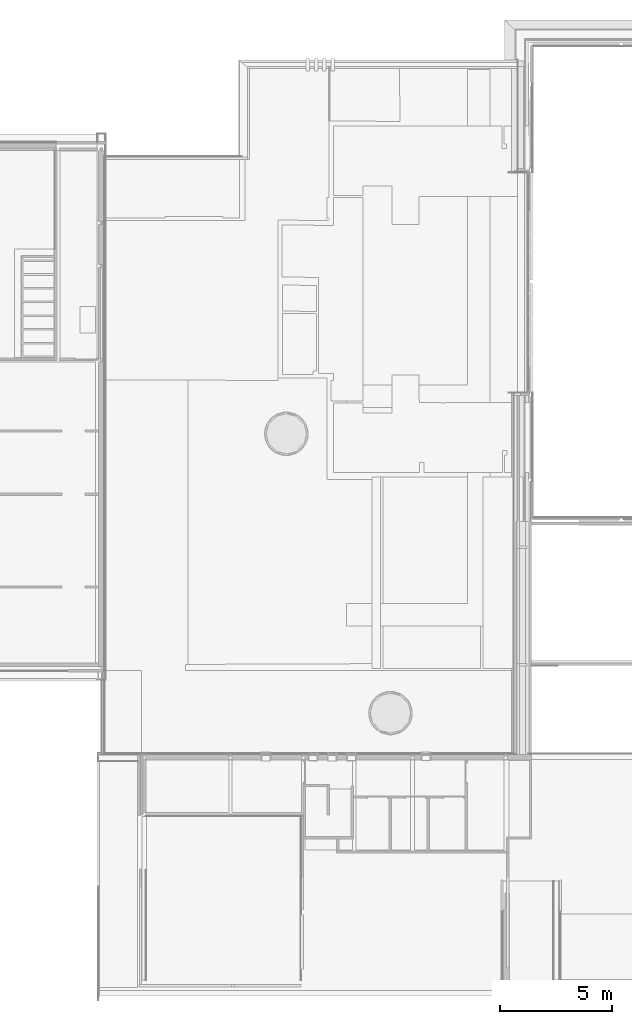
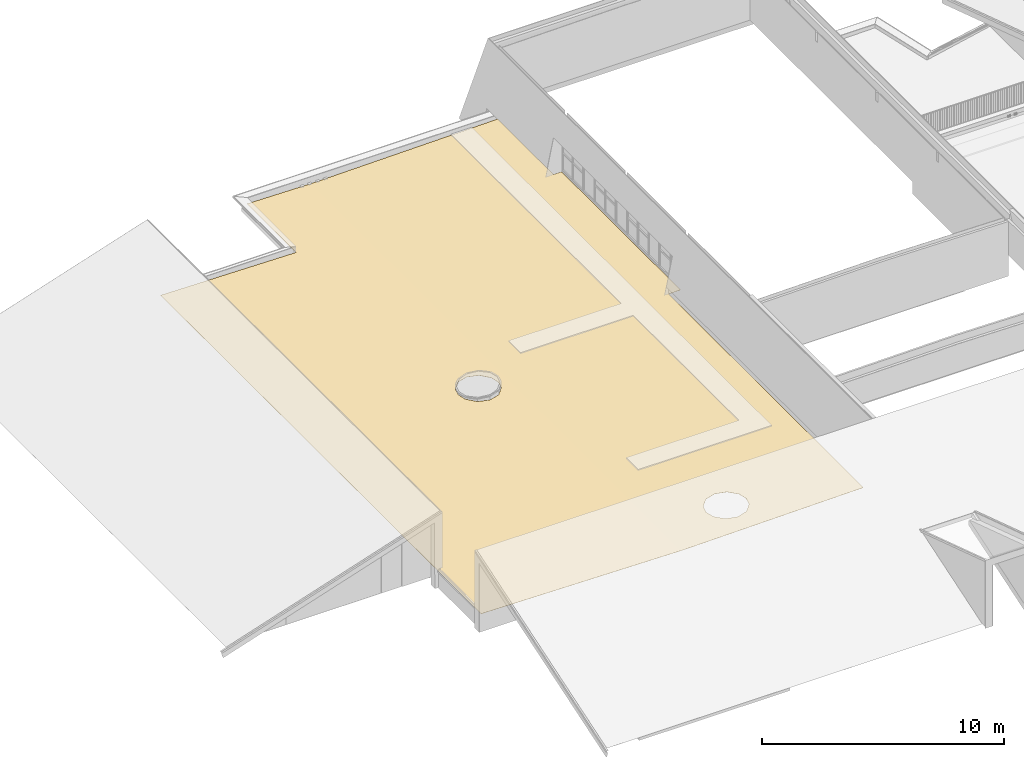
# One storey, part 62 of 66: 1 covering.
"""IFC2X3 building model written with IfcOpenShell, lengths in millimetres."""

import ifcopenshell
import ifcopenshell.guid

model = None  # the IFC model being written
_history = None  # IfcOwnerHistory: only IFC2X3 demands one
_inside = {}  # id of a spatial element -> (the spatial element, [elements in it])
_under = {}  # id of a project, library or spatial element -> (it, [spatial elements below it])
_declared = {}  # id of a project -> (the project, [libraries it declares])
_typed = {}  # id of a type object -> (the type object, [elements of that type])
_made_of = {}  # id of a material, layer set ... -> (it, [elements and type objects made of it])


def new_model(schema):
    """Start an empty IFC model of exactly this schema.

    Asked for "IFC4X3", IfcOpenShell would pick the latest addendum, in which some entities
    have other attributes; the version numbers below select the first issue.
    IFC2X3 requires an IfcOwnerHistory on every rooted entity: one is made here for all.
    """
    global model, _history
    if schema == "IFC4X3":
        model = ifcopenshell.file(schema_version=(4, 3, 0, 0))
    else:
        model = ifcopenshell.file(schema=schema)
    _inside.clear()
    _under.clear()
    _declared.clear()
    _typed.clear()
    _made_of.clear()
    _history = None
    if model.schema == "IFC2X3":
        org = make("IfcOrganization", Name="unknown")
        user = make(
            "IfcPersonAndOrganization",
            ThePerson=make("IfcPerson", FamilyName="unknown"),
            TheOrganization=org,
        )
        app = make(
            "IfcApplication",
            ApplicationDeveloper=org,
            Version="unknown",
            ApplicationFullName="unknown",
            ApplicationIdentifier="unknown",
        )
        _history = make(
            "IfcOwnerHistory",
            OwningUser=user,
            OwningApplication=app,
            ChangeAction="ADDED",
            CreationDate=0,
        )
    return model


def make(cls, **values):
    """One entity of the class cls with the attributes given. An attribute that is None is left unset."""
    return model.create_entity(
        cls, **{name: value for name, value in values.items() if value is not None}
    )


def entity(cls, *values):
    """Any entity or typed value of the class cls, its attributes in the order of the schema. None: left unset."""
    e = model.create_entity(cls)
    for i, value in enumerate(values):
        if value is not None:
            e[i] = value
    return e


def rooted(cls, **values):
    """An entity with a GlobalId (a new one), such as an element, a storey or a relation."""
    return make(cls, GlobalId=ifcopenshell.guid.new(), OwnerHistory=_history, **values)


def si_unit(unit_type, name, prefix=None):
    """IfcSIUnit, for example si_unit("LENGTHUNIT", "METRE", prefix="MILLI")."""
    return make("IfcSIUnit", UnitType=unit_type, Prefix=prefix, Name=name)


def converted_unit(unit_type, name, factor, base, dimensions=None, offset=None):
    """IfcConversionBasedUnit, such as the inch: factor (a typed value) times the base unit."""
    return make(
        "IfcConversionBasedUnit"
        if offset is None
        else "IfcConversionBasedUnitWithOffset",
        ConversionOffset=offset,
        Dimensions=None
        if dimensions is None
        else entity("IfcDimensionalExponents", *dimensions),
        UnitType=unit_type,
        Name=name,
        ConversionFactor=make(
            "IfcMeasureWithUnit", ValueComponent=factor, UnitComponent=base
        ),
    )


def derived_unit(unit_type, elements):
    """IfcDerivedUnit: a product of units, each with its exponent."""
    return make(
        "IfcDerivedUnit",
        Elements=[
            make("IfcDerivedUnitElement", Unit=unit, Exponent=power)
            for unit, power in elements
        ],
        UnitType=unit_type,
    )


def assignment(units):
    """IfcUnitAssignment: the units of a project."""
    return None if units is None else make("IfcUnitAssignment", Units=units)


def point(xyz):
    """IfcCartesianPoint."""
    return None if xyz is None else make("IfcCartesianPoint", Coordinates=xyz)


def direction(xyz):
    """IfcDirection."""
    return None if xyz is None else make("IfcDirection", DirectionRatios=xyz)


def frame(location, z_axis=None, x_axis=None):
    """IfcAxis2Placement3D, a coordinate frame: its origin and axes. An axis left out is left unset."""
    return make(
        "IfcAxis2Placement3D",
        Location=point(location),
        Axis=direction(z_axis),
        RefDirection=direction(x_axis),
    )


def origin():
    """The frame at (0, 0, 0) with its axes left unset."""
    return frame((0.0, 0.0, 0.0))


def place(relative_to, where):
    """IfcLocalPlacement: puts the frame where relative to a parent placement (None: the world)."""
    return make(
        "IfcLocalPlacement", PlacementRelTo=relative_to, RelativePlacement=where
    )


def context(
    kind, dimensions, precision=None, world=None, true_north=None, identifier=None
):
    """IfcGeometricRepresentationContext, for example the 3D "Model" context."""
    return make(
        "IfcGeometricRepresentationContext",
        ContextIdentifier=identifier,
        ContextType=kind,
        CoordinateSpaceDimension=dimensions,
        Precision=precision,
        WorldCoordinateSystem=world,
        TrueNorth=true_north,
    )


def subcontext(parent, identifier, kind, view, scale=None):
    """IfcGeometricRepresentationSubContext, for example "Body" below "Model"."""
    return make(
        "IfcGeometricRepresentationSubContext",
        ContextIdentifier=identifier,
        ContextType=kind,
        ParentContext=parent,
        TargetScale=scale,
        TargetView=view,
    )


def project(units=None, contexts=None):
    """IfcProject with its units and contexts."""
    return rooted(
        "IfcProject",
        Name="project",
        RepresentationContexts=contexts,
        UnitsInContext=assignment(units),
    )


def spatial(cls, under=None, at=None, **own):
    """A site, building, storey or space (cls), placed at a placement, below another one or the project."""
    s = rooted(cls, ObjectPlacement=at, **own)
    if under is not None:
        _under.setdefault(under.id(), (under, []))[1].append(s)
    return s


def faces_of(points, faces, orient=None, outer=None):
    """IfcFace entities. A face is a list of loops; a loop is a list of indices into points, from 0.

    orient and outer hold one flag for each loop. By default every Orientation is true, the
    first loop of a face is its IfcFaceOuterBound and the others are IfcFaceBound.
    """
    made = []
    for i, loops in enumerate(faces):
        bounds = []
        for j, loop in enumerate(loops):
            is_outer = j == 0 if outer is None else outer[i][j]
            bounds.append(
                make(
                    "IfcFaceOuterBound" if is_outer else "IfcFaceBound",
                    Bound=make("IfcPolyLoop", Polygon=[points[k] for k in loop]),
                    Orientation=True if orient is None else orient[i][j],
                )
            )
        made.append(make("IfcFace", Bounds=bounds))
    return made


def faceted_brep(points, faces, orient=None, outer=None, voids=None):
    """IfcFacetedBrep: a solid bounded by flat faces; with voids (closed shells), ...WithVoids."""
    shared = [point(p) for p in points]
    hull = make("IfcClosedShell", CfsFaces=faces_of(shared, faces, orient, outer))
    if voids is None:
        return make("IfcFacetedBrep", Outer=hull)
    return make(
        "IfcFacetedBrepWithVoids",
        Outer=hull,
        Voids=[
            make(cls, CfsFaces=faces_of(shared, fs, o, b)) for cls, fs, o, b in voids
        ],
    )


def shape(context_of_items, identifier, shape_type, items):
    """IfcShapeRepresentation: the items that make up one representation, for example the "Body"."""
    return make(
        "IfcShapeRepresentation",
        ContextOfItems=context_of_items,
        RepresentationIdentifier=identifier,
        RepresentationType=shape_type,
        Items=items,
    )


def material(Name=None, Category=None):
    """IfcMaterial."""
    return make("IfcMaterial", Name=Name, Category=Category)


def layer(
    of_material, thickness, ventilated=None, Name=None, Category=None, Priority=None
):
    """IfcMaterialLayer: one layer of a wall or slab, of a material (None: an air gap)."""
    return make(
        "IfcMaterialLayer",
        Material=of_material,
        LayerThickness=thickness,
        IsVentilated=ventilated,
        Name=Name,
        Category=Category,
        Priority=Priority,
    )


def layer_set(layers, Name=None):
    """IfcMaterialLayerSet."""
    return make("IfcMaterialLayerSet", MaterialLayers=layers, LayerSetName=Name)


def layer_usage(for_layer_set, set_direction, sense, offset, extent=None):
    """IfcMaterialLayerSetUsage: how a layer set lies in its element."""
    return make(
        "IfcMaterialLayerSetUsage",
        ForLayerSet=for_layer_set,
        LayerSetDirection=set_direction,
        DirectionSense=sense,
        OffsetFromReferenceLine=offset,
        ReferenceExtent=extent,
    )


def made_of(thing, what):
    """Note that an element or type object is made of a material, layer set ...; save() writes the relation."""
    if what is not None:
        _made_of.setdefault(what.id(), (what, []))[1].append(thing)
    return thing


def type_object(cls, material=None, **own):
    """A type object (cls), such as IfcWallType, which elements share."""
    return made_of(rooted(cls, **own), material)


def element(
    cls,
    number,
    at=None,
    inside=None,
    cuts=None,
    type_object=None,
    material=None,
    context=None,
    identifier="Body",
    shape_type=None,
    held_by="IfcProductDefinitionShape",
    body=None,
    shapes=None,
    **own,
):
    """One element of the class cls, such as IfcWall. Its Tag is "e" and its number.

    at: its placement. inside: the storey or other place that contains it. cuts: it is an
    opening in that element (IfcRelVoidsElement). A single representation is given by context,
    identifier, shape_type and body (its items); several are given by shapes. held_by: the class
    of the entity that holds the representations. save() writes the other relations.
    """
    e = rooted(cls, Tag="e%d" % number, ObjectPlacement=at, **own)
    if body is not None:
        shapes = [shape(context, identifier, shape_type, body)]
    if shapes is not None:
        e.Representation = make(held_by, Representations=shapes)
    if inside is not None:
        _inside.setdefault(inside.id(), (inside, []))[1].append(e)
    if cuts is not None:
        rooted(
            "IfcRelVoidsElement", RelatingBuildingElement=cuts, RelatedOpeningElement=e
        )
    if type_object is not None:
        _typed.setdefault(type_object.id(), (type_object, []))[1].append(e)
    return made_of(e, material)


def aggregate(whole, parts):
    """IfcRelAggregates: a whole, such as a stair, and the parts it consists of."""
    return rooted("IfcRelAggregates", RelatingObject=whole, RelatedObjects=parts)


def save(model, path):
    """Write the relations noted so far, then the file.

    IfcRelAggregates (storeys below a building ...), IfcRelContainedInSpatialStructure (elements
    in a storey), IfcRelDefinesByType, IfcRelAssociatesMaterial and IfcRelDeclares: one each for
    every whole, place, type object, material and project.
    """
    for whole, parts in _under.values():
        aggregate(whole, parts)
    for where, things in _inside.values():
        rooted(
            "IfcRelContainedInSpatialStructure",
            RelatedElements=things,
            RelatingStructure=where,
        )
    for kind, things in _typed.values():
        rooted("IfcRelDefinesByType", RelatedObjects=things, RelatingType=kind)
    for what, things in _made_of.values():
        rooted("IfcRelAssociatesMaterial", RelatedObjects=things, RelatingMaterial=what)
    for by, libraries in _declared.values():
        rooted("IfcRelDeclares", RelatingContext=by, RelatedDefinitions=libraries)
    model.write(path)


model = new_model("IFC2X3")

# Units and contexts
model_context = context("Model", 3, precision=0.01, world=origin(), true_north=direction((6.12303176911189e-17, 1.0)))
body_context = subcontext(model_context, "Body", "Model", "MODEL_VIEW")
ifc_project = project(units=[si_unit("LENGTHUNIT", "METRE", prefix="MILLI"), si_unit("AREAUNIT", "SQUARE_METRE"), si_unit("VOLUMEUNIT", "CUBIC_METRE"), converted_unit("PLANEANGLEUNIT", "DEGREE", entity("IfcRatioMeasure", 0.0174532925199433), si_unit("PLANEANGLEUNIT", "RADIAN"), dimensions=[0, 0, 0, 0, 0, 0, 0]), si_unit("MASSUNIT", "GRAM", prefix="KILO"), derived_unit("MASSDENSITYUNIT", [(si_unit("MASSUNIT", "GRAM", prefix="KILO"), 1), (si_unit("LENGTHUNIT", "METRE"), -3)]), derived_unit("MOMENTOFINERTIAUNIT", [(si_unit("LENGTHUNIT", "METRE"), 4)]), si_unit("TIMEUNIT", "SECOND"), si_unit("FREQUENCYUNIT", "HERTZ"), si_unit("THERMODYNAMICTEMPERATUREUNIT", "DEGREE_CELSIUS"), derived_unit("THERMALTRANSMITTANCEUNIT", [(si_unit("MASSUNIT", "GRAM", prefix="KILO"), 1), (si_unit("THERMODYNAMICTEMPERATUREUNIT", "KELVIN"), -1), (si_unit("TIMEUNIT", "SECOND"), -3)]), derived_unit("VOLUMETRICFLOWRATEUNIT", [(si_unit("LENGTHUNIT", "METRE"), 3), (si_unit("TIMEUNIT", "SECOND"), -1)]), si_unit("ELECTRICCURRENTUNIT", "AMPERE"), si_unit("ELECTRICVOLTAGEUNIT", "VOLT"), si_unit("POWERUNIT", "WATT"), si_unit("FORCEUNIT", "NEWTON", prefix="KILO"), si_unit("ILLUMINANCEUNIT", "LUX"), si_unit("LUMINOUSFLUXUNIT", "LUMEN"), si_unit("LUMINOUSINTENSITYUNIT", "CANDELA"), derived_unit("USERDEFINED", [(si_unit("MASSUNIT", "GRAM", prefix="KILO"), -1), (si_unit("LENGTHUNIT", "METRE"), -2), (si_unit("TIMEUNIT", "SECOND"), 3), (si_unit("LUMINOUSFLUXUNIT", "LUMEN"), 1)]), derived_unit("LINEARVELOCITYUNIT", [(si_unit("LENGTHUNIT", "METRE"), 1), (si_unit("TIMEUNIT", "SECOND"), -1)]), si_unit("PRESSUREUNIT", "PASCAL"), derived_unit("USERDEFINED", [(si_unit("LENGTHUNIT", "METRE"), -2), (si_unit("MASSUNIT", "GRAM", prefix="KILO"), 1), (si_unit("TIMEUNIT", "SECOND"), -2)]), derived_unit("LINEARFORCEUNIT", [(si_unit("MASSUNIT", "GRAM", prefix="KILO"), 1), (si_unit("LENGTHUNIT", "METRE"), 1), (si_unit("TIMEUNIT", "SECOND"), -2), (si_unit("LENGTHUNIT", "METRE"), -1)]), derived_unit("PLANARFORCEUNIT", [(si_unit("MASSUNIT", "GRAM", prefix="KILO"), 1), (si_unit("LENGTHUNIT", "METRE"), 1), (si_unit("TIMEUNIT", "SECOND"), -2), (si_unit("LENGTHUNIT", "METRE"), -2)])], contexts=[model_context])

# Site, building, storey
site_placement = place(None, origin())
site = spatial("IfcSite", under=ifc_project, at=site_placement, Name="Default", CompositionType="ELEMENT")
building_placement = place(site_placement, origin())
building = spatial("IfcBuilding", under=site, at=building_placement, Name="-", CompositionType="ELEMENT")
storey_placement = place(building_placement, frame((0.0, 0.0, 3070.0)))
storey = spatial("IfcBuildingStorey", under=building, at=storey_placement, Name="01 eerste verdieping", CompositionType="ELEMENT", Elevation=3070.00000000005)

# Covering
ifc_material = material(Name="NLRS_n2_bitumen_dak bedekking")
ifc_layer = layer(ifc_material, 6.0)
ifc_layer_set = layer_set([ifc_layer], Name="Basic Roof:47.11_2 laagse Bitumen dakbedekking")
ifc_layer_usage = layer_usage(ifc_layer_set, "AXIS3", "NEGATIVE", 0.0)
covering_type = type_object("IfcCoveringType", Name="Basic Roof:47.11_2 laagse Bitumen dakbedekking", PredefinedType="NOTDEFINED")
covering_placement = place(storey_placement, frame((9786.0, 10408.124095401, 122.000767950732)))
element("IfcCovering", 1, at=covering_placement, inside=storey, type_object=covering_type, material=ifc_layer_usage, Name="Basic Roof:47.11_2 laagse Bitumen dakbedekking", ObjectType="Basic Roof:47.11_2 laagse Bitumen dakbedekking", PredefinedType="NOTDEFINED", context=body_context, shape_type="Brep", body=[
    faceted_brep([(18200.4481330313, 0.0, 142.039170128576), (9698.0, 0.0, 6.0), (9498.0, 0.0, 6.0), (0.0, 0.0, 157.968000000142), (0.0, 0.0, 151.967232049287), (9497.95200308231, 0.0, 0.0), (9698.04799694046, 0.0, 0.0), (18200.4481330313, 0.0, 136.038402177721), (6452.0, 30487.6300607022, 48.7352320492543), (6452.0, 30487.6300607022, 54.7360000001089), (9498.0, 30487.6300607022, 6.0), (9698.0, 30487.6300607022, 6.0), (18387.2301313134, 30487.6300607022, 145.027682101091), (18387.2301313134, 30487.6300607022, 139.026914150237), (9698.04799694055, 30487.6300607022, 0.0), (9497.95200308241, 30487.6300607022, 0.0), (12720.9690457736, 882.26833781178, 54.3675047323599), (12973.6842821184, 955.074343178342, 58.4109485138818), (13226.3995184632, 1027.88034854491, 62.454392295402), (13401.6444943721, 1223.9795670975, 65.2583119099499), (13489.2669823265, 1322.02917637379, 66.6602717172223), (13576.8894702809, 1420.0787856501, 68.0622315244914), (13600.4093641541, 1523.12617369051, 68.4385498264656), (13623.9292580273, 1626.17356173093, 68.8148681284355), (13670.9690457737, 1832.26833781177, 69.5675047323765), (13656.1335472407, 1897.26690380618, 69.3301367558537), (13641.2980487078, 1962.26546980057, 69.092768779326), (13623.9292580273, 2038.36311389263, 68.8148681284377), (13576.8894702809, 2244.45788997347, 68.0622315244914), (13489.2669823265, 2342.50749924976, 66.6602717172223), (13401.6444943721, 2440.55710852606, 65.2583119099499), (13226.3995184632, 2636.65632707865, 62.454392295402), (18200.4481330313, 16065.8527873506, 142.039170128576), (12973.6842821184, 2709.46233244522, 58.4109485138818), (12720.9690457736, 2782.26833781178, 54.3675047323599), (12468.2538094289, 2709.46233244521, 50.324060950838), (12215.5385730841, 2636.65632707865, 46.2806171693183), (18387.2301313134, 25880.931250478, 145.027682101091), (18769.0, 16065.8527873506, 151.136000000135), (18769.0, 25880.931250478, 151.136000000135), (11865.0486212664, 2244.45788997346, 40.6727779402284), (11952.6711092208, 2342.50749924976, 42.0747377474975), (12040.2935971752, 2440.55710852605, 43.4766975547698), (12468.2538094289, 955.074343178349, 50.324060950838), (12215.5385730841, 1027.88034854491, 46.2806171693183), (12040.2935971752, 1223.97956709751, 43.4766975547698), (11952.6711092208, 1322.02917637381, 42.0747377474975), (11865.0486212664, 1420.07878565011, 40.6727779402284), (11841.5287273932, 1523.12617369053, 40.2964596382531), (11829.7687804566, 1574.64986771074, 40.1083004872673), (11818.00883352, 1626.17356173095, 39.9201413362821), (11800.640042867, 1702.27120570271, 39.6422406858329), (11770.9690457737, 1832.26833781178, 39.1675047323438), (11782.7289927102, 1883.79203183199, 39.3556638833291), (11794.4889396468, 1935.3157258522, 39.5438230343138), (11818.00883352, 2038.36311389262, 39.9201413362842), (11829.7687804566, 2089.88680791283, 40.1083004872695), (11841.5287273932, 2141.41050193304, 40.2964596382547), (11853.2886743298, 2192.93419595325, 40.4846187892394), (8593.78548666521, 13447.3894762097, 20.4674322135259), (8341.07025032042, 13374.5834708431, 24.5108759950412), (8088.35501397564, 13301.7774654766, 28.5543197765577), (0.0, 3667.0, 157.968000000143), (8769.03046257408, 13643.4886947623, 17.6635125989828), (8856.65295052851, 13741.5383040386, 16.2615527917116), (8944.27543848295, 13839.5879133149, 14.8595929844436), (8956.03538541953, 13891.1116073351, 14.6714338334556), (8967.79533235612, 13942.6353013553, 14.4832746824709), (8979.55527929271, 13994.1589953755, 14.2951155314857), (8991.3152262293, 14045.6826893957, 14.1069563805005), (9014.83512010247, 14148.7300774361, 13.7306380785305), (9026.59506703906, 14200.2537714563, 13.5424789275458), (9038.35501397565, 14251.7774654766, 13.3543197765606), (9008.6840167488, 14381.7745981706, 13.8290557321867), (8991.3152262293, 14457.8722415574, 14.1069563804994), (8979.55527929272, 14509.3959355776, 14.2951155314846), (8967.79533235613, 14560.9196295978, 14.4832746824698), (8944.27543848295, 14663.9670176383, 14.8595929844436), (8856.65295052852, 14762.0166269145, 16.2615527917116), (8769.03046257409, 14860.0662361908, 17.6635125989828), (8593.78548666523, 15056.1654547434, 20.4674322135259), (6452.0, 26448.8624813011, 54.7360000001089), (8341.07025032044, 15128.97146011, 24.5108759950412), (8088.35501397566, 15201.7774654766, 28.5543197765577), (7835.63977763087, 15128.97146011, 32.5977635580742), (7582.92454128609, 15056.1654547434, 36.641207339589), (0.0, 26448.8624813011, 157.968000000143), (7138.35501397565, 14251.7774654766, 43.7543197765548), (7185.394801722, 14457.8722415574, 43.0016831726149), (7208.91469559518, 14560.9196295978, 42.6253648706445), (7232.43458946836, 14663.9670176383, 42.2490465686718), (7320.05707742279, 14762.0166269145, 40.8470867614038), (7407.67956537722, 14860.0662361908, 39.4451269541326), (7835.63977763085, 13374.5834708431, 32.5977635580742), (7582.92454128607, 13447.3894762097, 36.641207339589), (7407.67956537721, 13643.4886947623, 39.4451269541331), (7320.05707742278, 13741.5383040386, 40.8470867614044), (7232.43458946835, 13839.5879133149, 42.2490465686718), (7185.394801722, 14045.6826893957, 43.0016831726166), (7168.02601111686, 14121.7803331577, 43.2795838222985), (7153.19051254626, 14186.7788993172, 43.5169517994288), (0.0, 26448.8624813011, 151.967232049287), (0.0, 3667.0, 151.967232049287), (8088.35501397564, 13301.7774654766, 22.5535518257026), (8341.07025032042, 13374.5834708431, 18.5101080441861), (8593.78548666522, 13447.3894762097, 14.4666642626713), (8769.03046257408, 13643.4886947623, 11.6627446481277), (8856.65295052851, 13741.5383040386, 10.2607848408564), (8944.27543848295, 13839.5879133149, 8.85882503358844), (8961.64422998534, 13915.685561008, 8.58092436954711), (8979.01302148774, 13991.7832087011, 8.30302370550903), (8993.84851960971, 14056.781772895, 8.0656557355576), (9008.6840177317, 14121.7803370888, 7.82828776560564), (9023.51951585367, 14186.7789012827, 7.59091979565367), (9038.35501397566, 14251.7774654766, 7.35355182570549), (7835.63977763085, 13374.5834708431, 26.596995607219), (7582.92454128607, 13447.3894762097, 30.6404393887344), (7407.67956537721, 13643.4886947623, 33.444359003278), (7320.05707742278, 13741.5383040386, 34.8463188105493), (7232.43458946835, 13839.5879133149, 36.2482786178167), (7185.394801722, 14045.6826893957, 37.0009152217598), (7161.87490784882, 14148.7300774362, 37.3772335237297), (7150.11496091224, 14200.2537714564, 37.5653926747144), (7138.35501397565, 14251.7774654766, 37.7535518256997), (7185.394801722, 14457.8722415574, 37.0009152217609), (7208.91469559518, 14560.9196295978, 36.6245969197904), (7232.43458946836, 14663.9670176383, 36.2482786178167), (7320.05707742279, 14762.0166269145, 34.8463188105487), (7407.67956537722, 14860.0662361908, 33.4443590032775), (7582.92454128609, 15056.1654547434, 30.6404393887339), (6452.0, 26448.8624813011, 48.7352320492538), (8593.78548666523, 15056.1654547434, 14.4666642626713), (8341.07025032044, 15128.97146011, 18.5101080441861), (7835.63977763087, 15128.97146011, 26.596995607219), (8088.35501397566, 15201.7774654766, 22.5535518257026), (9008.68401674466, 14381.7745981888, 7.82828778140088), (8993.84851812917, 14446.7731645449, 8.06565575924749), (8986.43076882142, 14479.2724477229, 8.18433974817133), (8979.01301951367, 14511.771730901, 8.30302373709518), (8961.64422899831, 14587.8693742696, 8.58092438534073), (8944.27543848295, 14663.9670176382, 8.85882503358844), (8856.65295052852, 14762.0166269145, 10.2607848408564), (8769.03046257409, 14860.0662361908, 11.6627446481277), (12215.5385730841, 1027.88034854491, 40.2798492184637), (12468.2538094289, 955.074343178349, 44.323292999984), (12720.9690457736, 882.26833781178, 48.3667367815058), (12040.2935971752, 1223.97956709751, 37.4759296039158), (11952.6711092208, 1322.02917637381, 36.0739697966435), (11865.0486212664, 1420.0787856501, 34.6720099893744), (11847.6798306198, 1496.17642959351, 34.3941093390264), (11830.3110399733, 1572.27407353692, 34.1162086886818), (11822.8932906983, 1604.77335657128, 33.9975247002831), (11815.4755414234, 1637.27263960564, 33.8788407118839), (11800.6400428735, 1702.27120567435, 33.6414727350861), (11770.9690457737, 1832.26833781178, 33.1667367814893), (11785.8045439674, 1897.2669023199, 33.4041047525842), (11800.6400421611, 1962.26546682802, 33.6414727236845), (11815.4755403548, 2027.26403133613, 33.8788406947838), (11830.3110385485, 2092.26259584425, 34.1162086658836), (11847.6798299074, 2168.36024290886, 34.3941093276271), (11865.0486212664, 2244.45788997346, 34.6720099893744), (11952.6711092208, 2342.50749924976, 36.0739697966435), (12040.2935971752, 2440.55710852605, 37.4759296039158), (12215.5385730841, 2636.65632707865, 40.2798492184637), (18200.4481330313, 16065.8527873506, 136.038402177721), (18387.2301313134, 25880.931250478, 139.026914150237), (18769.0, 16065.8527873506, 145.135232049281), (18769.0, 25880.931250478, 145.135232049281), (13226.3995184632, 2636.65632707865, 56.4536243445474), (12973.6842821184, 2709.46233244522, 52.4101805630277), (12720.9690457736, 2782.26833781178, 48.3667367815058), (12468.2538094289, 2709.46233244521, 44.323292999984), (12973.6842821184, 955.074343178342, 52.4101805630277), (13226.3995184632, 1027.88034854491, 56.4536243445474), (13401.6444943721, 1223.9795670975, 59.2575439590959), (13489.2669823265, 1322.02917637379, 60.6595037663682), (13576.8894702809, 1420.0787856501, 62.0614635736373), (13600.4093641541, 1523.12617369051, 62.4377818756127), (13623.9292580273, 1626.17356173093, 62.8141001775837), (13670.9690457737, 1832.26833781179, 63.5667367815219), (13659.2090988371, 1883.79203183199, 63.3785776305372), (13647.4491519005, 1935.3157258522, 63.1904184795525), (13623.9292580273, 2038.36311389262, 62.8141001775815), (13576.8894702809, 2244.45788997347, 62.0614635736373), (13489.2669823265, 2342.50749924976, 60.6595037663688), (13401.6444943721, 2440.55710852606, 59.2575439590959)], [[[0, 1, 2, 3, 4, 5, 6, 7]], [[8, 9, 10, 11, 12, 13, 14, 15]], [[0, 16, 1]], [[0, 17, 16]], [[0, 18, 17]], [[0, 19, 18]], [[0, 20, 19]], [[0, 21, 20]], [[0, 22, 21]], [[0, 23, 22]], [[0, 24, 23]], [[0, 25, 24]], [[0, 26, 25]], [[0, 27, 26]], [[0, 28, 27]], [[0, 29, 28]], [[0, 30, 29]], [[0, 31, 30]], [[32, 31, 0]], [[32, 33, 31]], [[32, 34, 33]], [[32, 35, 34]], [[32, 36, 35]], [[36, 32, 11]], [[32, 37, 11]], [[32, 38, 37]], [[39, 37, 38]], [[11, 37, 12]], [[1, 40, 11]], [[11, 40, 41]], [[11, 41, 42]], [[11, 42, 36]], [[1, 16, 43]], [[1, 43, 44]], [[1, 44, 45]], [[1, 45, 46]], [[1, 46, 47]], [[1, 47, 48]], [[1, 48, 49]], [[1, 49, 50]], [[1, 50, 51]], [[1, 51, 52]], [[1, 52, 53]], [[1, 53, 54]], [[1, 54, 55]], [[1, 55, 56]], [[1, 56, 57]], [[1, 57, 58]], [[1, 58, 40]], [[2, 1, 11, 10]], [[2, 59, 60]], [[2, 60, 61]], [[2, 61, 62]], [[3, 2, 62]], [[2, 63, 59]], [[2, 64, 63]], [[2, 65, 64]], [[2, 66, 65]], [[2, 67, 66]], [[2, 68, 67]], [[2, 69, 68]], [[2, 70, 69]], [[2, 71, 70]], [[2, 72, 71]], [[2, 10, 72]], [[10, 73, 72]], [[10, 74, 73]], [[10, 75, 74]], [[10, 76, 75]], [[10, 77, 76]], [[10, 78, 77]], [[10, 79, 78]], [[10, 80, 79]], [[10, 81, 80]], [[10, 9, 81]], [[81, 82, 80]], [[81, 83, 82]], [[81, 84, 83]], [[81, 85, 84]], [[86, 85, 81]], [[87, 86, 62]], [[86, 87, 88]], [[86, 88, 89]], [[86, 89, 90]], [[86, 90, 91]], [[86, 91, 92]], [[86, 92, 85]], [[62, 61, 93]], [[62, 93, 94]], [[62, 94, 95]], [[62, 95, 96]], [[62, 96, 97]], [[62, 97, 98]], [[62, 98, 99]], [[62, 99, 100]], [[62, 100, 87]], [[4, 3, 62, 86, 101, 102]], [[5, 4, 102]], [[103, 5, 102]], [[5, 103, 104]], [[5, 104, 105]], [[5, 105, 106]], [[5, 106, 107]], [[5, 107, 108]], [[5, 108, 109]], [[5, 109, 110]], [[5, 110, 111]], [[5, 111, 112]], [[5, 112, 113]], [[5, 113, 114]], [[5, 114, 15]], [[102, 115, 103]], [[102, 116, 115]], [[102, 117, 116]], [[102, 118, 117]], [[102, 119, 118]], [[102, 120, 119]], [[102, 121, 120]], [[102, 122, 121]], [[102, 123, 122]], [[123, 102, 101]], [[101, 124, 123]], [[101, 125, 124]], [[101, 126, 125]], [[101, 127, 126]], [[101, 128, 127]], [[101, 129, 128]], [[129, 101, 130]], [[15, 130, 8]], [[130, 15, 131]], [[130, 131, 132]], [[130, 133, 129]], [[130, 134, 133]], [[130, 132, 134]], [[15, 114, 135]], [[15, 135, 136]], [[15, 136, 137]], [[15, 137, 138]], [[15, 138, 139]], [[15, 139, 140]], [[15, 140, 141]], [[15, 141, 142]], [[15, 142, 131]], [[6, 5, 15, 14]], [[6, 143, 144]], [[6, 144, 145]], [[145, 7, 6]], [[6, 146, 143]], [[6, 147, 146]], [[6, 148, 147]], [[6, 149, 148]], [[6, 150, 149]], [[6, 151, 150]], [[6, 152, 151]], [[6, 153, 152]], [[6, 154, 153]], [[6, 155, 154]], [[6, 156, 155]], [[6, 157, 156]], [[6, 158, 157]], [[6, 159, 158]], [[6, 160, 159]], [[6, 14, 160]], [[14, 161, 160]], [[14, 162, 161]], [[14, 163, 162]], [[163, 14, 164]], [[165, 164, 14]], [[14, 13, 165]], [[166, 164, 165]], [[165, 167, 166]], [[164, 7, 168]], [[164, 168, 169]], [[164, 169, 170]], [[164, 170, 171]], [[164, 171, 163]], [[7, 145, 172]], [[7, 172, 173]], [[7, 173, 174]], [[7, 174, 175]], [[7, 175, 176]], [[7, 176, 177]], [[7, 177, 178]], [[7, 178, 179]], [[7, 179, 180]], [[7, 180, 181]], [[7, 181, 182]], [[7, 182, 183]], [[7, 183, 184]], [[7, 184, 185]], [[7, 185, 168]], [[38, 166, 167, 39]], [[81, 130, 101, 86]], [[130, 81, 9, 8]], [[13, 12, 37, 165]], [[37, 39, 167, 165]], [[32, 164, 166, 38]], [[7, 164, 32, 0]], [[115, 116, 94, 93, 61, 103]], [[105, 104, 103, 61, 60, 59]], [[97, 96, 95, 94, 116, 117, 118, 119]], [[121, 122, 123, 87, 100, 99, 98, 97, 119, 120]], [[107, 106, 105, 59, 63, 64, 65, 108]], [[65, 66, 67, 68, 69, 70, 71, 72, 114, 113, 112, 111, 110, 109, 108]], [[77, 140, 139, 138, 137, 136, 135, 114, 72, 73, 74, 75, 76]], [[77, 78, 79, 80, 131, 142, 141, 140]], [[80, 82, 83, 134, 132, 131]], [[133, 134, 83, 84, 85, 129]], [[127, 128, 129, 85, 92, 91, 90, 126]], [[126, 90, 89, 88, 87, 123, 124, 125]], [[48, 47, 148, 149, 150, 151, 152, 153, 154, 52, 51, 50, 49]], [[46, 45, 44, 143, 146, 147, 148, 47]], [[143, 44, 43, 16, 145, 144]], [[17, 18, 173, 172, 145, 16]], [[21, 176, 175, 174, 173, 18, 19, 20]], [[176, 21, 22, 23, 24, 179, 178, 177]], [[35, 36, 163, 171, 170, 34]], [[31, 33, 34, 170, 169, 168]], [[28, 29, 30, 31, 168, 185, 184, 183]], [[181, 180, 179, 24, 25, 26, 27, 28, 183, 182]], [[40, 58, 57, 56, 55, 54, 53, 52, 154, 155, 156, 157, 158, 159, 160]], [[42, 41, 40, 160, 161, 162, 163, 36]]]),
])

save(model, "model.ifc")
